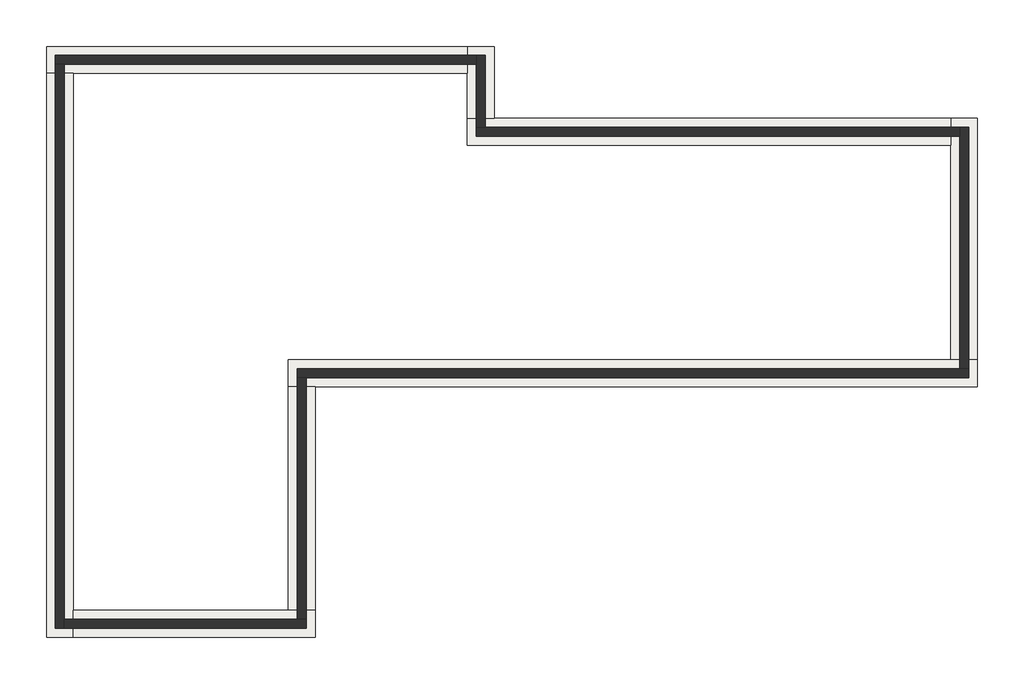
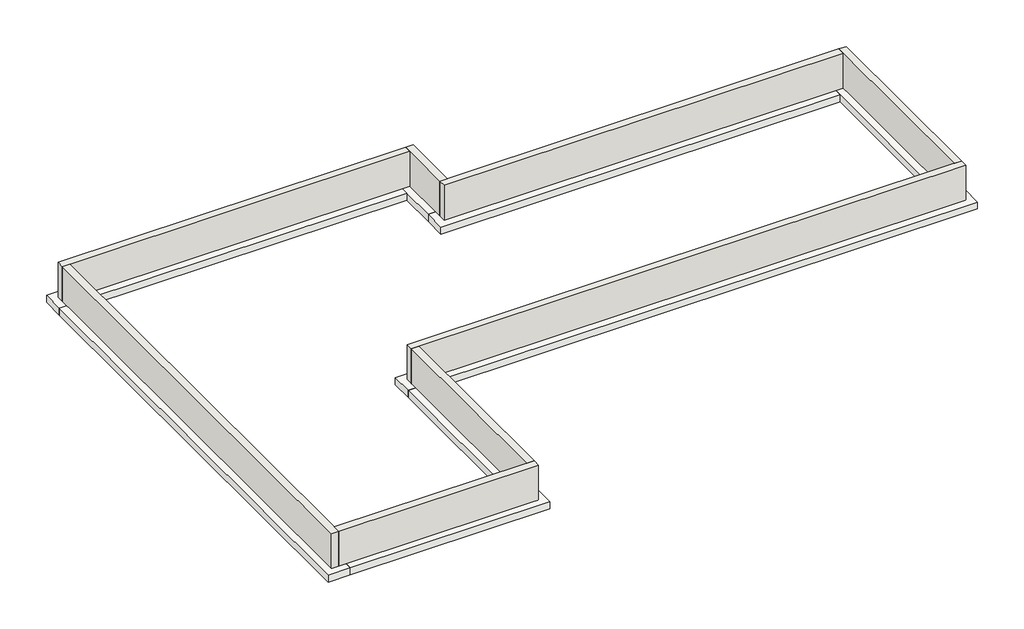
# One storey: 8 footings, 8 walls.
"""IFC4 building model written with IfcOpenShell, lengths in millimetres."""

from ifc_helpers import new_model, si_unit, frame, origin, place, context, project, spatial, polyline, outline, extrude, faceted_brep, element, save

model = new_model("IFC4")

# Units and contexts
model_context = context("Model", 3, world=origin())
ifc_project = project(units=[si_unit("LENGTHUNIT", "METRE", prefix="MILLI")], contexts=[model_context])

# Site, building, storey
site = spatial("IfcSite", under=ifc_project)
building = spatial("IfcBuilding", under=site)
storey = spatial("IfcBuildingStorey", under=building, Name="T.O. Footing", Elevation=-1524.0)

# Footings
placement = place(None, origin())
element("IfcFooting", 1, ObjectType="Bearing Footing - 36\" x 12\"", at=placement, inside=storey, context=model_context, shape_type="Brep", body=[
    faceted_brep([(17458.2733448, 557.9855424, -1524.0), (16543.8733448, 557.9855424, -1524.0), (-6011.3266552, 557.9855424, -1524.0), (-6011.3266552, -356.4144576, -1524.0), (-5096.9266552, -356.4144576, -1524.0), (17458.2733448, -356.4144576, -1524.0), (17458.2733448, -356.4144576, -1828.8), (-6011.3266552, -356.4144576, -1828.8), (-5096.9266552, -356.4144576, -1828.8), (17458.2733448, 557.9855424, -1828.8), (-6011.3266552, 557.9855424, -1828.8), (16543.8733448, 557.9855424, -1828.8)], [[[0, 1, 2, 3, 4, 5]], [[6, 5, 4, 3, 7, 8]], [[9, 6, 8, 7, 10, 11]], [[0, 9, 11, 10, 2, 1]], [[0, 5, 6, 9]], [[3, 2, 10, 7]]]),
])
element("IfcFooting", 2, ObjectType="Bearing Footing - 36\" x 12\"", at=placement, inside=storey, context=model_context, shape_type="Brep", body=[
    faceted_brep([(17458.2733448, 8787.5855424, -1524.0), (16543.8733448, 8787.5855424, -1524.0), (16543.8733448, 7873.1855424, -1524.0), (16543.8733448, 557.9855424, -1524.0), (17458.2733448, 557.9855424, -1524.0), (17458.2733448, 8787.5855424, -1828.8), (17458.2733448, 557.9855424, -1828.8), (16543.8733448, 8787.5855424, -1828.8), (16543.8733448, 557.9855424, -1828.8), (16543.8733448, 7873.1855424, -1828.8)], [[[0, 1, 2, 3, 4]], [[5, 0, 4, 6]], [[7, 5, 6, 8, 9]], [[1, 7, 9, 8, 3, 2]], [[1, 0, 5, 7]], [[4, 3, 8, 6]]]),
])
element("IfcFooting", 3, ObjectType="Bearing Footing - 36\" x 12\"", at=placement, inside=storey, context=model_context, shape_type="Brep", body=[
    faceted_brep([(84.6733448, 8787.5855424, -1524.0), (84.6733448, 7873.1855424, -1524.0), (16543.8733448, 7873.1855424, -1524.0), (16543.8733448, 8787.5855424, -1524.0), (999.0733448, 8787.5855424, -1524.0), (84.6733448, 8787.5855424, -1828.8), (16543.8733448, 8787.5855424, -1828.8), (999.0733448, 8787.5855424, -1828.8), (84.6733448, 7873.1855424, -1828.8), (16543.8733448, 7873.1855424, -1828.8)], [[[0, 1, 2, 3, 4]], [[5, 0, 4, 3, 6, 7]], [[8, 5, 7, 6, 9]], [[1, 8, 9, 2]], [[1, 0, 5, 8]], [[3, 2, 9, 6]]]),
])
element("IfcFooting", 4, ObjectType="Bearing Footing - 36\" x 12\"", at=placement, inside=storey, context=model_context, shape_type="Brep", body=[
    faceted_brep([(999.0733448, 11225.9855424, -1524.0), (84.6733448, 11225.9855424, -1524.0), (84.6733448, 10311.5855424, -1524.0), (84.6733448, 8787.5855424, -1524.0), (999.0733448, 8787.5855424, -1524.0), (999.0733448, 11225.9855424, -1828.8), (999.0733448, 8787.5855424, -1828.8), (84.6733448, 11225.9855424, -1828.8), (84.6733448, 8787.5855424, -1828.8), (84.6733448, 10311.5855424, -1828.8)], [[[0, 1, 2, 3, 4]], [[5, 0, 4, 6]], [[7, 5, 6, 8, 9]], [[1, 7, 9, 8, 3, 2]], [[1, 0, 5, 7]], [[4, 3, 8, 6]]]),
])
element("IfcFooting", 5, ObjectType="Bearing Footing - 36\" x 12\"", at=placement, inside=storey, context=model_context, shape_type="Brep", body=[
    faceted_brep([(-14240.9266552, 11225.9855424, -1524.0), (-14240.9266552, 10311.5855424, -1524.0), (-13326.5266552, 10311.5855424, -1524.0), (84.6733448, 10311.5855424, -1524.0), (84.6733448, 11225.9855424, -1524.0), (-14240.9266552, 11225.9855424, -1828.8), (84.6733448, 11225.9855424, -1828.8), (-14240.9266552, 10311.5855424, -1828.8), (84.6733448, 10311.5855424, -1828.8), (-13326.5266552, 10311.5855424, -1828.8)], [[[0, 1, 2, 3, 4]], [[5, 0, 4, 6]], [[7, 5, 6, 8, 9]], [[1, 7, 9, 8, 3, 2]], [[1, 0, 5, 7]], [[4, 3, 8, 6]]]),
])
element("IfcFooting", 6, ObjectType="Bearing Footing - 36\" x 12\"", at=placement, inside=storey, context=model_context, shape_type="Brep", body=[
    faceted_brep([(-14240.9266552, -8890.8144576, -1524.0), (-13326.5266552, -8890.8144576, -1524.0), (-13326.5266552, -7976.4144576, -1524.0), (-13326.5266552, 10311.5855424, -1524.0), (-14240.9266552, 10311.5855424, -1524.0), (-14240.9266552, -8890.8144576, -1828.8), (-14240.9266552, 10311.5855424, -1828.8), (-13326.5266552, -8890.8144576, -1828.8), (-13326.5266552, 10311.5855424, -1828.8), (-13326.5266552, -7976.4144576, -1828.8)], [[[0, 1, 2, 3, 4]], [[5, 0, 4, 6]], [[7, 5, 6, 8, 9]], [[1, 7, 9, 8, 3, 2]], [[1, 0, 5, 7]], [[4, 3, 8, 6]]]),
])
element("IfcFooting", 7, ObjectType="Bearing Footing - 36\" x 12\"", at=placement, inside=storey, context=model_context, shape_type="Brep", body=[
    faceted_brep([(-5096.9266552, -8890.8144576, -1524.0), (-5096.9266552, -7976.4144576, -1524.0), (-6011.3266552, -7976.4144576, -1524.0), (-13326.5266552, -7976.4144576, -1524.0), (-13326.5266552, -8890.8144576, -1524.0), (-5096.9266552, -8890.8144576, -1828.8), (-13326.5266552, -8890.8144576, -1828.8), (-5096.9266552, -7976.4144576, -1828.8), (-13326.5266552, -7976.4144576, -1828.8), (-6011.3266552, -7976.4144576, -1828.8)], [[[0, 1, 2, 3, 4]], [[5, 0, 4, 6]], [[7, 5, 6, 8, 9]], [[1, 7, 9, 8, 3, 2]], [[1, 0, 5, 7]], [[4, 3, 8, 6]]]),
])
element("IfcFooting", 8, ObjectType="Bearing Footing - 36\" x 12\"", at=placement, inside=storey, context=model_context, shape_type="SweptSolid", body=[
    extrude(outline(polyline([(-6011.3266552, -356.4144576), (-5096.9266552, -356.4144576), (-5096.9266552, -7976.4144576), (-6011.3266552, -7976.4144576), (-6011.3266552, -356.4144576)])), frame((0.0, 0.0, -1828.8), z_axis=(0.0, 0.0, 1.0), x_axis=(1.0, 0.0, 0.0)), (0.0, 0.0, 1.0), 304.8),
])

# Walls
element("IfcWall", 9, ObjectType="Foundation - 12\" Concrete", at=placement, inside=storey, context=model_context, shape_type="Brep", body=[
    faceted_brep([(17153.4733448, 253.1855424, -1524.0), (16848.6733448, 253.1855424, -1524.0), (-5706.5266552, 253.1855424, -1524.0), (-5706.5266552, 253.1855424, 0.0), (16848.6733448, 253.1855424, 0.0), (17153.4733448, 253.1855424, 0.0), (17153.4733448, -51.6144576, -1524.0), (17153.4733448, -51.6144576, 0.0), (-5401.7266552, -51.6144576, 0.0), (-5706.5266552, -51.6144576, 0.0), (-5706.5266552, -51.6144576, -1524.0), (-5401.7266552, -51.6144576, -1524.0)], [[[0, 1, 2, 3, 4, 5]], [[6, 7, 8, 9, 10, 11]], [[2, 1, 0, 6, 11, 10]], [[5, 4, 3, 9, 8, 7]], [[0, 5, 7, 6]], [[3, 2, 10, 9]]]),
])
element("IfcWall", 10, ObjectType="Foundation - 12\" Concrete", at=placement, inside=storey, context=model_context, shape_type="Brep", body=[
    faceted_brep([(16848.6733448, 8482.7855424, -1524.0), (16848.6733448, 8177.9855424, -1524.0), (16848.6733448, 253.1855424, -1524.0), (16848.6733448, 253.1855424, 0.0), (16848.6733448, 8177.9855424, 0.0), (16848.6733448, 8482.7855424, 0.0), (17153.4733448, 8482.7855424, -1524.0), (17153.4733448, 8482.7855424, 0.0), (17153.4733448, 253.1855424, 0.0), (17153.4733448, 253.1855424, -1524.0)], [[[0, 1, 2, 3, 4, 5]], [[6, 7, 8, 9]], [[2, 1, 0, 6, 9]], [[5, 4, 3, 8, 7]], [[3, 2, 9, 8]], [[0, 5, 7, 6]]]),
])
element("IfcWall", 11, ObjectType="Foundation - 12\" Concrete", at=placement, inside=storey, context=model_context, shape_type="Brep", body=[
    faceted_brep([(389.4733448, 8177.9855424, -1524.0), (16848.6733448, 8177.9855424, -1524.0), (16848.6733448, 8177.9855424, 0.0), (389.4733448, 8177.9855424, 0.0), (389.4733448, 8482.7855424, -1524.0), (389.4733448, 8482.7855424, 0.0), (694.2733448, 8482.7855424, 0.0), (16848.6733448, 8482.7855424, 0.0), (16848.6733448, 8482.7855424, -1524.0), (694.2733448, 8482.7855424, -1524.0)], [[[0, 1, 2, 3]], [[4, 5, 6, 7, 8, 9]], [[1, 0, 4, 9, 8]], [[3, 2, 7, 6, 5]], [[2, 1, 8, 7]], [[0, 3, 5, 4]]]),
])
element("IfcWall", 12, ObjectType="Foundation - 12\" Concrete", at=placement, inside=storey, context=model_context, shape_type="Brep", body=[
    faceted_brep([(389.4733448, 10921.1855424, -1524.0), (389.4733448, 10616.3855424, -1524.0), (389.4733448, 8482.7855424, -1524.0), (389.4733448, 8482.7855424, 0.0), (389.4733448, 10616.3855424, 0.0), (389.4733448, 10921.1855424, 0.0), (694.2733448, 10921.1855424, -1524.0), (694.2733448, 10921.1855424, 0.0), (694.2733448, 8482.7855424, 0.0), (694.2733448, 8482.7855424, -1524.0)], [[[0, 1, 2, 3, 4, 5]], [[6, 7, 8, 9]], [[2, 1, 0, 6, 9]], [[5, 4, 3, 8, 7]], [[3, 2, 9, 8]], [[0, 5, 7, 6]]]),
])
element("IfcWall", 13, ObjectType="Foundation - 12\" Concrete", at=placement, inside=storey, context=model_context, shape_type="Brep", body=[
    faceted_brep([(-13936.1266552, 10616.3855424, -1524.0), (-13631.3266552, 10616.3855424, -1524.0), (389.4733448, 10616.3855424, -1524.0), (389.4733448, 10616.3855424, 0.0), (-13631.3266552, 10616.3855424, 0.0), (-13936.1266552, 10616.3855424, 0.0), (-13936.1266552, 10921.1855424, -1524.0), (-13936.1266552, 10921.1855424, 0.0), (389.4733448, 10921.1855424, 0.0), (389.4733448, 10921.1855424, -1524.0)], [[[0, 1, 2, 3, 4, 5]], [[6, 7, 8, 9]], [[2, 1, 0, 6, 9]], [[5, 4, 3, 8, 7]], [[3, 2, 9, 8]], [[0, 5, 7, 6]]]),
])
element("IfcWall", 14, ObjectType="Foundation - 12\" Concrete", at=placement, inside=storey, context=model_context, shape_type="Brep", body=[
    faceted_brep([(-13631.3266552, -8586.0144576, -1524.0), (-13631.3266552, -8281.2144576, -1524.0), (-13631.3266552, 10616.3855424, -1524.0), (-13631.3266552, 10616.3855424, 0.0), (-13631.3266552, -8281.2144576, 0.0), (-13631.3266552, -8586.0144576, 0.0), (-13936.1266552, -8586.0144576, -1524.0), (-13936.1266552, -8586.0144576, 0.0), (-13936.1266552, 10616.3855424, 0.0), (-13936.1266552, 10616.3855424, -1524.0)], [[[0, 1, 2, 3, 4, 5]], [[6, 7, 8, 9]], [[2, 1, 0, 6, 9]], [[5, 4, 3, 8, 7]], [[3, 2, 9, 8]], [[0, 5, 7, 6]]]),
])
element("IfcWall", 15, ObjectType="Foundation - 12\" Concrete", at=placement, inside=storey, context=model_context, shape_type="Brep", body=[
    faceted_brep([(-5401.7266552, -8281.2144576, -1524.0), (-5706.5266552, -8281.2144576, -1524.0), (-13631.3266552, -8281.2144576, -1524.0), (-13631.3266552, -8281.2144576, 0.0), (-5706.5266552, -8281.2144576, 0.0), (-5401.7266552, -8281.2144576, 0.0), (-5401.7266552, -8586.0144576, -1524.0), (-5401.7266552, -8586.0144576, 0.0), (-13631.3266552, -8586.0144576, 0.0), (-13631.3266552, -8586.0144576, -1524.0)], [[[0, 1, 2, 3, 4, 5]], [[6, 7, 8, 9]], [[2, 1, 0, 6, 9]], [[5, 4, 3, 8, 7]], [[3, 2, 9, 8]], [[0, 5, 7, 6]]]),
])
element("IfcWall", 16, ObjectType="Foundation - 12\" Concrete", at=placement, inside=storey, context=model_context, shape_type="SweptSolid", body=[
    extrude(outline(polyline([(-5706.5266552, -8281.2144576), (-5706.5266552, -51.6144576), (-5401.7266552, -51.6144576), (-5401.7266552, -8281.2144576), (-5706.5266552, -8281.2144576)])), frame((0.0, 0.0, -1524.0), z_axis=(0.0, 0.0, 1.0), x_axis=(1.0, 0.0, 0.0)), (0.0, 0.0, 1.0), 1524.0),
])

save(model, "model.ifc")
